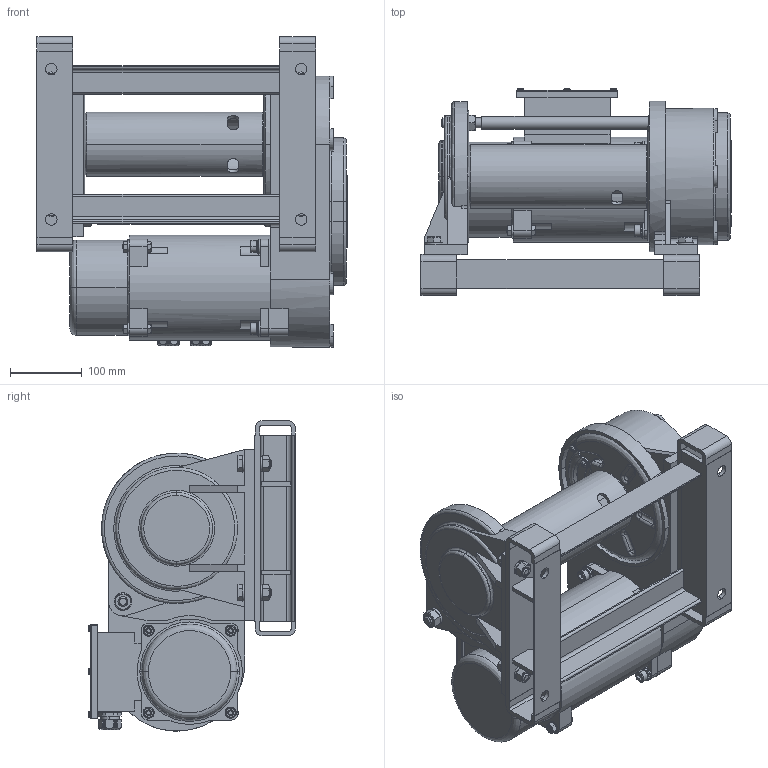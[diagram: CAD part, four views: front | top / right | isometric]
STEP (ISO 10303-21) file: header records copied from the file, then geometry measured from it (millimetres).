
FILE_DESCRIPTION( (''), '2;1');
FILE_NAME ('BMW-303.stp','2023-05-12T15:27:51',(''),(''),'spGate 19.8.2 (****-****-****-****)','','');
FILE_SCHEMA (('AUTOMOTIVE_DESIGN'));
Length unit declared in the file: millimetre
Products named in the file (7): Assembly; BMW-303-prt0; BMW-303-prt1; BMW-303-prt2; BMW-303-prt3; BMW-303-prt4; BMW-303-prt5
Assembly tree (6 placements, depth 2):
  Assembly
    BMW-303-prt0
    BMW-303-prt1
    BMW-303-prt2
    BMW-303-prt3
    BMW-303-prt4
    BMW-303-prt5
Bounding box: 433 x 290.2 x 433.3 mm (x, y, z)
Volume: 14563495.5 mm3; surface area: 1258114.1 mm2
Topology: 1 solids, 1 shells, 2098 faces, 5431 edges, 3422 vertices
Faces by surface type: plane 1194, cylinder 556, bspline 308, sphere 40
Entity records: 113357 total; most frequent: CARTESIAN_POINT 20378, ORIENTED_EDGE 10790, DIRECTION 10162, COLOUR_RGB 7499, PRESENTATION_STYLE_ASSIGNMENT 7499, STYLED_ITEM 7499, EDGE_CURVE 5395, DRAUGHTING_PRE_DEFINED_CURVE_FONT 5395
